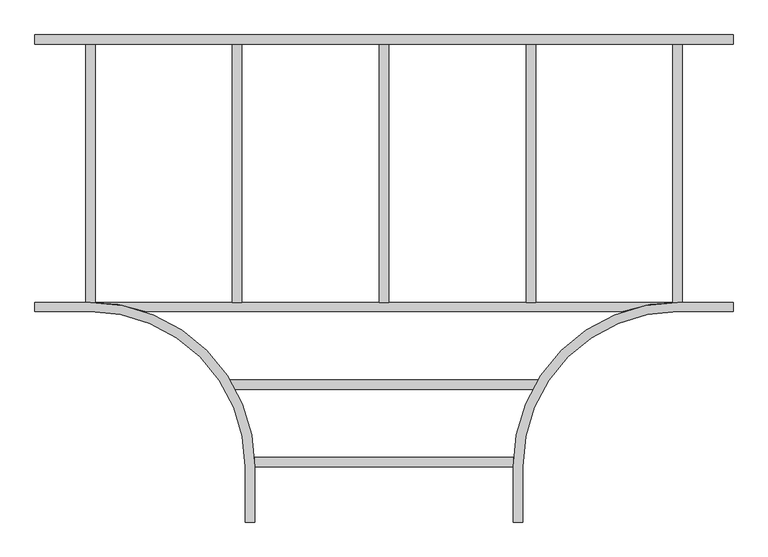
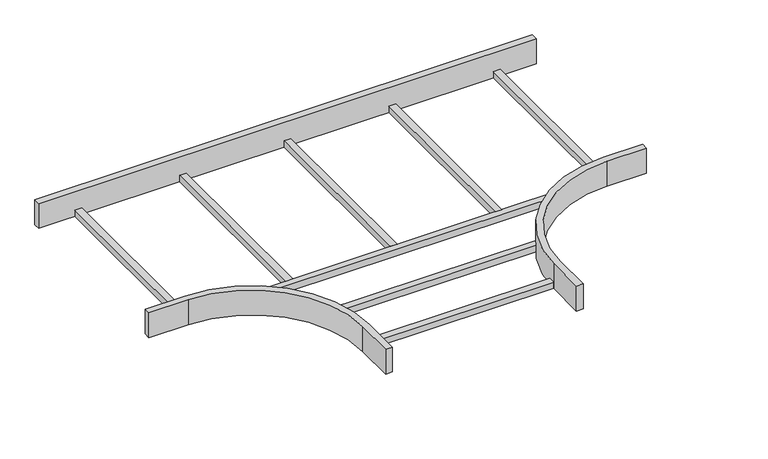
"""IFC4 building model written with IfcOpenShell, lengths in millimetres: cable carrier fitting geometry, BAKS_LD_TEE_Ladder horizontal tee_TDV : TDVC_H100."""

from ifc_helpers import new_model, si_unit, frame, origin, place, context, project, spatial, polyline, circle_curve, outline, extrude, faceted_brep, source, transform, mapped, element, save
from ifc_brep_helpers import plane_surface, cylinder_surface, revolved_surface, advanced_brep


def cable_carrier_fitting_337cd88a(model_context):
    return source(origin(), model_context, "Body", "SolidModel", [
        extrude(outline(polyline([(416.8889052, -559.6), (416.8889052, -585.0), (-416.8889052, -585.0), (-416.8889052, -559.6), (416.8889052, -559.6)])), frame((0.0, 0.0, -50.0), z_axis=(0.0, 0.0, 1.0), x_axis=(1.0, 0.0, 0.0)), (0.0, 0.0, 1.0), 25.4),
        extrude(outline(polyline([(349.6, -769.6), (349.6, -795.0), (-349.6, -795.0), (-349.6, -769.6), (349.6, -769.6)])), frame((0.0, 0.0, -50.0), z_axis=(0.0, 0.0, 1.0), x_axis=(1.0, 0.0, 0.0)), (0.0, 0.0, 1.0), 25.4),
        extrude(outline(polyline([(807.7, 349.6), (807.7, -349.6), (782.3, -349.6), (782.3, 349.6), (807.7, 349.6)])), frame((0.0, 0.0, -50.0), z_axis=(0.0, 0.0, 1.0), x_axis=(1.0, 0.0, 0.0)), (0.0, 0.0, 1.0), 25.4),
        extrude(outline(polyline([(410.2, 349.6), (410.2, -349.6), (384.8, -349.6), (384.8, 349.6), (410.2, 349.6)])), frame((0.0, 0.0, -50.0), z_axis=(0.0, 0.0, 1.0), x_axis=(1.0, 0.0, 0.0)), (0.0, 0.0, 1.0), 25.4),
        extrude(outline(polyline([(12.7, 349.6), (12.7, -349.6), (-12.7, -349.6), (-12.7, 349.6), (12.7, 349.6)])), frame((0.0, 0.0, -50.0), z_axis=(0.0, 0.0, 1.0), x_axis=(1.0, 0.0, 0.0)), (0.0, 0.0, 1.0), 25.4),
        extrude(outline(polyline([(-384.8, 349.6), (-384.8, -349.6), (-410.2, -349.6), (-410.2, 349.6), (-384.8, 349.6)])), frame((0.0, 0.0, -50.0), z_axis=(0.0, 0.0, 1.0), x_axis=(1.0, 0.0, 0.0)), (0.0, 0.0, 1.0), 25.4),
        extrude(outline(polyline([(-782.3, 349.6), (-782.3, -349.6), (-807.7, -349.6), (-807.7, 349.6), (-782.3, 349.6)])), frame((0.0, 0.0, -50.0), z_axis=(0.0, 0.0, 1.0), x_axis=(1.0, 0.0, 0.0)), (0.0, 0.0, 1.0), 25.4),
        advanced_brep(
        [(-375.0, -795.0, 50.0), (-375.0, -945.0, 50.0), (-349.6, -945.0, 50.0), (-349.6, -795.0, 50.0), (-795.0, -349.6, 50.0), (-945.0, -349.6, 50.0), (-945.0, -375.0, 50.0), (-795.0, -375.0, 50.0), (375.0, -795.0, 50.0), (795.0, -375.0, 50.0), (945.0, -375.0, 50.0), (945.0, -349.6, 50.0), (795.0, -349.6, 50.0), (349.6, -795.0, 50.0), (349.6, -945.0, 50.0), (375.0, -945.0, 50.0), (-375.0, -795.0, -50.0), (-795.0, -375.0, -50.0), (-945.0, -375.0, -50.0), (-945.0, -349.6, -50.0), (945.0, -349.6, -50.0), (945.0, -375.0, -50.0), (795.0, -375.0, -50.0), (375.0, -795.0, -50.0), (375.0, -945.0, -50.0), (349.6, -945.0, -50.0), (349.6, -795.0, -50.0), (646.7395535, -375.0, -50.0), (-646.7395535, -375.0, -50.0), (-349.6, -795.0, -50.0), (-349.6, -945.0, -50.0), (-375.0, -945.0, -50.0), (-646.7395535, -375.0, -24.6), (-795.0, -349.6, -24.6), (795.0, -349.6, -24.6), (-795.0, -375.0, -24.6), (795.0, -375.0, -24.6), (646.7395535, -375.0, -24.6)],
        [
            (0, 1),
            (1, 2),
            (2, 3),
            (3, 4, circle_curve(frame((-795.0, -795.0, 50.0), z_axis=(0.0, 0.0, 1.0), x_axis=(1.0, 0.0, 0.0)), 445.4)),
            (4, 5),
            (5, 6),
            (6, 7),
            (7, 0, circle_curve(frame((-795.0, -795.0, 50.0), z_axis=(0.0, 0.0, -1.0), x_axis=(1.0, 0.0, 0.0)), 420.0)),
            (8, 9, circle_curve(frame((795.0, -795.0, 50.0), z_axis=(0.0, 0.0, -1.0), x_axis=(1.0, 0.0, 0.0)), 420.0)),
            (9, 10),
            (10, 11),
            (11, 12),
            (12, 13, circle_curve(frame((795.0, -795.0, 50.0), z_axis=(0.0, 0.0, 1.0), x_axis=(1.0, 0.0, 0.0)), 445.4)),
            (13, 14),
            (14, 15),
            (15, 8),
            (16, 17, circle_curve(frame((-795.0, -795.0, -50.0), z_axis=(0.0, 0.0, 1.0), x_axis=(1.0, 0.0, 0.0)), 420.0)),
            (17, 18),
            (18, 19),
            (19, 20),
            (20, 21),
            (21, 22),
            (22, 23, circle_curve(frame((795.0, -795.0, -50.0), z_axis=(0.0, 0.0, 1.0), x_axis=(1.0, 0.0, 0.0)), 420.0)),
            (23, 24),
            (24, 25),
            (25, 26),
            (26, 27, circle_curve(frame((795.0, -795.0, -50.0), z_axis=(0.0, 0.0, -1.0), x_axis=(1.0, 0.0, 0.0)), 445.4)),
            (27, 28),
            (28, 29, circle_curve(frame((-795.0, -795.0, -50.0), z_axis=(0.0, 0.0, -1.0), x_axis=(1.0, 0.0, 0.0)), 445.4)),
            (29, 30),
            (30, 31),
            (31, 16),
            (0, 16),
            (31, 1),
            (30, 2),
            (29, 3),
            (28, 32),
            (32, 33, circle_curve(frame((-795.0, -795.0, -24.6), z_axis=(0.0, 0.0, 1.0), x_axis=(1.0, 0.0, 0.0)), 445.4)),
            (33, 4),
            (33, 34),
            (34, 12),
            (11, 20),
            (19, 5),
            (18, 6),
            (17, 35),
            (35, 7),
            (8, 23),
            (22, 36),
            (36, 9),
            (21, 10),
            (34, 37, circle_curve(frame((795.0, -795.0, -24.6), z_axis=(0.0, 0.0, 1.0), x_axis=(1.0, 0.0, 0.0)), 445.4)),
            (37, 27),
            (26, 13),
            (25, 14),
            (24, 15),
            (32, 37),
        ],
        [
            plane_surface(frame((-375.0, -795.0, 50.0), z_axis=(0.0, 0.0, 1.0), x_axis=(0.0, -1.0, 0.0))),
            plane_surface(frame((-375.0, -795.0, -50.0), z_axis=(0.0, 0.0, -1.0), x_axis=(0.0, 1.0, 0.0))),
            plane_surface(frame((-375.0, -795.0, 50.0), z_axis=(-1.0, 0.0, 0.0), x_axis=(0.0, 0.0, -1.0))),
            plane_surface(frame((-375.0, -945.0, 50.0), z_axis=(0.0, -1.0, 0.0), x_axis=(0.0, 0.0, -1.0))),
            plane_surface(frame((-349.6, -945.0, 50.0), z_axis=(1.0, 0.0, 0.0), x_axis=(0.0, 0.0, -1.0))),
            cylinder_surface(frame((-795.0, -795.0, -50.0), z_axis=(0.0, 0.0, 1.0), x_axis=(1.0, 0.0, 0.0)), 445.4),
            plane_surface(frame((-795.0, -349.6, 50.0), z_axis=(0.0, 1.0, 0.0), x_axis=(0.0, 0.0, -1.0))),
            plane_surface(frame((-945.0, -349.6, 50.0), z_axis=(-1.0, 0.0, 0.0), x_axis=(0.0, 0.0, -1.0))),
            plane_surface(frame((-945.0, -375.0, 50.0), z_axis=(0.0, -1.0, 0.0), x_axis=(0.0, 0.0, -1.0))),
            revolved_surface(polyline([(-375.0, -795.0, -50.0), (-375.0, -795.0, 50.0)]), (-795.0, -795.0, -50.0), (0.0, 0.0, -1.0)),
            revolved_surface(polyline([(1215.0, -795.0, -50.0), (1215.0, -795.0, 50.0)]), (795.0, -795.0, 0.0), (0.0, 0.0, -1.0)),
            plane_surface(frame((795.0, -375.0, 50.0), z_axis=(0.0, -1.0, 0.0), x_axis=(0.0, 0.0, -1.0))),
            plane_surface(frame((945.0, -375.0, 50.0), z_axis=(1.0, 0.0, 0.0), x_axis=(0.0, 0.0, -1.0))),
            cylinder_surface(frame((795.0, -795.0, 0.0), z_axis=(0.0, 0.0, 1.0), x_axis=(1.0, 0.0, 0.0)), 445.4),
            plane_surface(frame((349.6, -795.0, 50.0), z_axis=(-1.0, 0.0, 0.0), x_axis=(0.0, 0.0, -1.0))),
            plane_surface(frame((349.6, -945.0, 50.0), z_axis=(0.0, -1.0, 0.0), x_axis=(0.0, 0.0, -1.0))),
            plane_surface(frame((375.0, -945.0, 50.0), z_axis=(1.0, 0.0, 0.0), x_axis=(0.0, 0.0, -1.0))),
            plane_surface(frame((-795.0, -349.6, -24.6), z_axis=(0.0, 0.0, 1.0), x_axis=(-1.0, 0.0, 0.0))),
            plane_surface(frame((-795.0, -375.0, -24.6), z_axis=(0.0, -1.0, 0.0), x_axis=(0.0, 0.0, -1.0))),
        ],
        [
            (0, [[1, 2, 3, 4, 5, 6, 7, 8]]),
            (0, [[9, 10, 11, 12, 13, 14, 15, 16]]),
            (1, [[17, 18, 19, 20, 21, 22, 23, 24, 25, 26, 27, 28, 29, 30, 31, 32]]),
            (2, [[-1, 33, -32, 34]]),
            (3, [[-2, -34, -31, 35]]),
            (4, [[-3, -35, -30, 36]]),
            (5, [[-4, -36, -29, 37, 38, 39]]),
            (6, [[-5, -39, 40, 41, -12, 42, -20, 43]]),
            (7, [[-6, -43, -19, 44]]),
            (8, [[-7, -44, -18, 45, 46]]),
            (9, [[-8, -46, -45, -17, -33]]),
            (10, [[-9, 47, -23, 48, 49]]),
            (11, [[-10, -49, -48, -22, 50]]),
            (12, [[-11, -50, -21, -42]]),
            (13, [[-13, -41, 51, 52, -27, 53]]),
            (14, [[-14, -53, -26, 54]]),
            (15, [[-15, -54, -25, 55]]),
            (16, [[-16, -55, -24, -47]]),
            (17, [[-40, -38, 56, -51]]),
            (18, [[-28, -52, -56, -37]]),
        ],
    ),
        faceted_brep([(945.0, 375.0, 50.0), (-945.0, 375.0, 50.0), (-945.0, 349.6, 50.0), (945.0, 349.6, 50.0), (945.0, 375.0, -50.0), (945.0, 349.6, -50.0), (-945.0, 349.6, -50.0), (-945.0, 375.0, -50.0)], [[[0, 1, 2, 3]], [[4, 5, 6, 7]], [[1, 0, 4, 7]], [[2, 1, 7, 6]], [[3, 2, 6, 5]], [[0, 3, 5, 4]]]),
    ])


if __name__ == "__main__":
    model = new_model("IFC4")
    model_context = context("Model", 3, world=origin())
    ifc_project = project(units=[si_unit("LENGTHUNIT", "METRE", prefix="MILLI")], contexts=[model_context])
    site = spatial("IfcSite", under=ifc_project)
    building = spatial("IfcBuilding", under=site)
    placement = place(None, origin())
    cable_carrier_fitting_shape = cable_carrier_fitting_337cd88a(model_context)
    element("IfcCableCarrierFitting", 1, ObjectType="BAKS_LD_TEE_Ladder horizontal tee_TDV : TDVC_H100", at=placement, inside=building, context=model_context, shape_type="MappedRepresentation", body=[
        mapped(cable_carrier_fitting_shape, transform((0.0, 0.0, 0.0), x_axis=(1.0, 0.0, 0.0), y_axis=(0.0, 1.0, 0.0), z_axis=(0.0, 0.0, 1.0))),
    ])
    save(model, "model.ifc")
